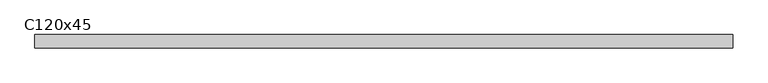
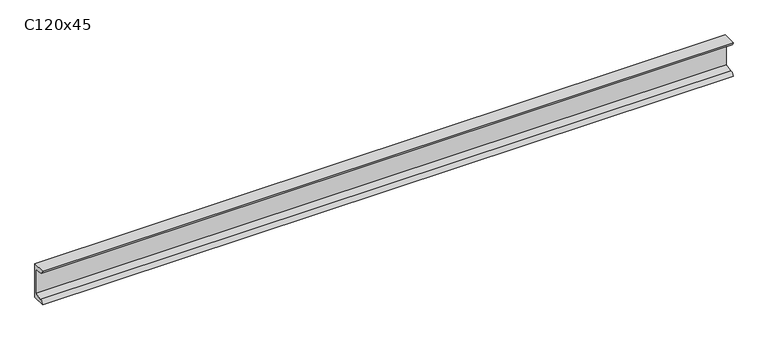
"""IFC4 building model written with IfcOpenShell, lengths in millimetres: beam geometry, M_C-Channel_305x105 : C120x45."""

from ifc_helpers import new_model, si_unit, point, frame, frame_2d, origin, place, context, project, spatial, polyline, circle_curve, trimmed, segment, composite_curve, outline, extrude, source, transform, mapped, element, save


def c120x45_62af5141(model_context):
    return source(origin(), model_context, "Body", "SweptSolid", [
        extrude(outline(composite_curve([segment(polyline([(16.8909985, 60.0), (16.8909985, -60.0), (-28.1090015, -60.0)]), True, "CONTINUOUS"), segment(trimmed(circle_curve(frame_2d((-15.4090015, -60.0)), 12.7), [point((-28.1090015, -60.0))], [point((-15.4090015, -47.3))], False, "CARTESIAN"), True, "CONTINUOUS"), segment(polyline([(-15.4090015, -47.3), (11.8909985, -42.9761048), (11.8909985, 42.9761048), (-15.4090015, 47.3)]), True, "CONTINUOUS"), segment(trimmed(circle_curve(frame_2d((-15.4090015, 60.0)), 12.7), [point((-15.4090015, 47.3))], [point((-28.1090015, 60.0))], False, "CARTESIAN"), True, "CONTINUOUS"), segment(polyline([(-28.1090015, 60.0), (16.8909985, 60.0)]), True, "CONTINUOUS")], self_intersect=False)), frame((-1156.8, 0.0, 0.0), z_axis=(1.0, 0.0, 0.0), x_axis=(0.0, 1.0, 0.0)), (0.0, 0.0, 1.0), 2326.3),
    ])


if __name__ == "__main__":
    model = new_model("IFC4")
    model_context = context("Model", 3, world=origin())
    ifc_project = project(units=[si_unit("LENGTHUNIT", "METRE", prefix="MILLI")], contexts=[model_context])
    site = spatial("IfcSite", under=ifc_project)
    building = spatial("IfcBuilding", under=site)
    placement = place(None, origin())
    c120x45_shape = c120x45_62af5141(model_context)
    element("IfcBeam", 1, ObjectType="M_C-Channel_305x105 : C120x45", at=placement, inside=building, context=model_context, shape_type="MappedRepresentation", body=[
        mapped(c120x45_shape, transform((0.0, 0.0, 0.0), x_axis=(1.0, 0.0, 0.0), y_axis=(0.0, 1.0, 0.0), z_axis=(0.0, 0.0, 1.0))),
    ])
    save(model, "model.ifc")
